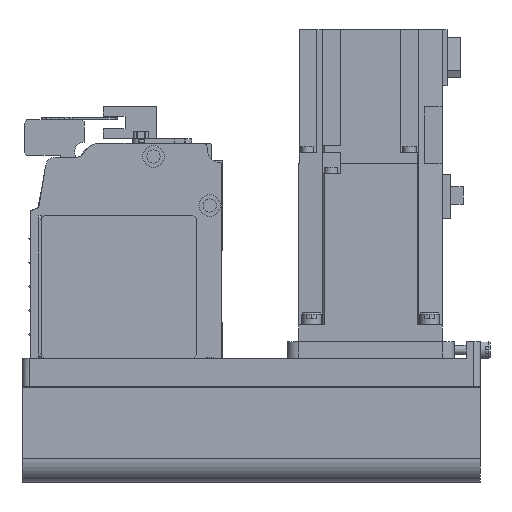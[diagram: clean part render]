
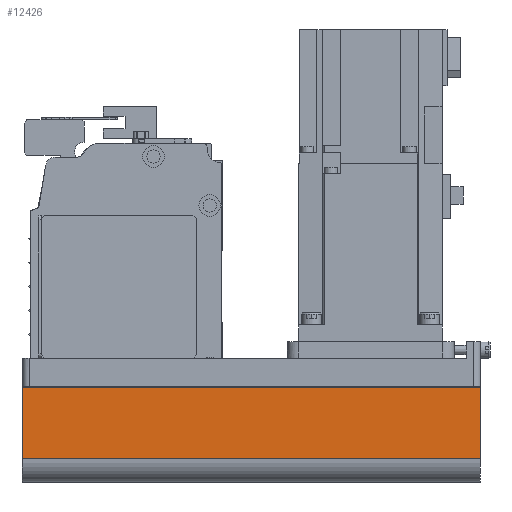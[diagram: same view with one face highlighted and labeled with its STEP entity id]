
A CAD part, left-side view. The second image highlights one B-rep face of the part: STEP entity #12426.
In plain terms, the highlighted planar face has unit normal (-1, 0, 0) as drawn and (0, 1, 0) by its records, which use the part's own axes.
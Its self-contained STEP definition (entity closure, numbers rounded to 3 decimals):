
#2223=ORIENTED_EDGE('',*,*,#5037,.F.);
#2224=ORIENTED_EDGE('',*,*,#5069,.F.);
#2225=ORIENTED_EDGE('',*,*,#5024,.T.);
#2226=ORIENTED_EDGE('',*,*,#5009,.T.);
#5009=EDGE_CURVE('',#6575,#6576,#7827,.T.);
#5024=EDGE_CURVE('',#6587,#6575,#7840,.T.);
#5037=EDGE_CURVE('',#6597,#6576,#7849,.T.);
#5069=EDGE_CURVE('',#6587,#6597,#7861,.T.);
#6575=VERTEX_POINT('',#19379);
#6576=VERTEX_POINT('',#19380);
#6587=VERTEX_POINT('',#19408);
#6597=VERTEX_POINT('',#19435);
#7827=LINE('',#19378,#9055);
#7840=LINE('',#19407,#9068);
#7849=LINE('',#19434,#9077);
#7861=LINE('',#19489,#9089);
#9055=VECTOR('',#15566,1000.);
#9068=VECTOR('',#15587,1000.);
#9077=VECTOR('',#15612,1000.);
#9089=VECTOR('',#15690,1000.);
#10144=EDGE_LOOP('',(#2223,#2224,#2225,#2226));
#11086=FACE_BOUND('',#10144,.T.);
#11861=PLANE('',#13397);
#12426=ADVANCED_FACE('',(#11086),#11861,.T.);
#13397=AXIS2_PLACEMENT_3D('',#19488,#15688,#15689);
#15566=DIRECTION('',(1.,0.,0.));
#15587=DIRECTION('',(0.,0.,1.));
#15612=DIRECTION('',(0.,0.,1.));
#15688=DIRECTION('',(0.,1.,0.));
#15689=DIRECTION('',(0.,0.,1.));
#15690=DIRECTION('',(1.,0.,0.));
#19378=CARTESIAN_POINT('',(-192.,40.,-12.1));
#19379=CARTESIAN_POINT('',(-192.,40.,-12.1));
#19380=CARTESIAN_POINT('',(0.,40.,-12.1));
#19407=CARTESIAN_POINT('',(-192.,40.,-42.));
#19408=CARTESIAN_POINT('',(-192.,40.,-42.));
#19434=CARTESIAN_POINT('',(0.,40.,-42.));
#19435=CARTESIAN_POINT('',(0.,40.,-42.));
#19488=CARTESIAN_POINT('',(-192.,40.,-42.));
#19489=CARTESIAN_POINT('',(-192.,40.,-42.));
